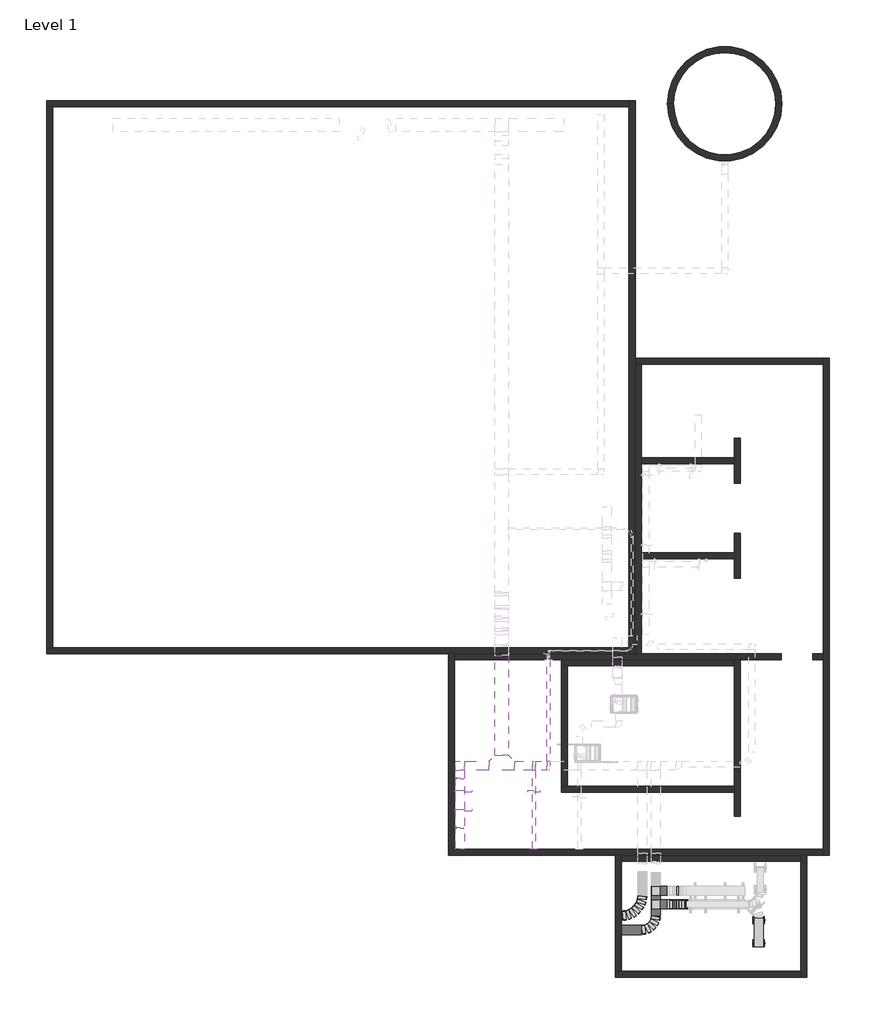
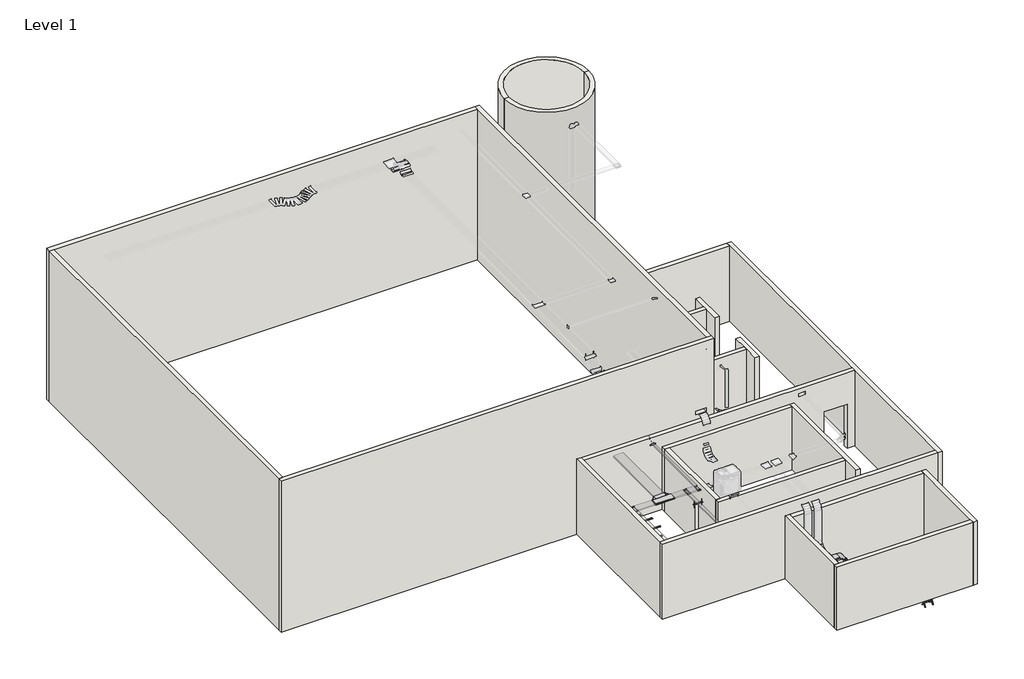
# One storey, part 1 of 3: 24 walls, 16 cable carrier segments, 11 cable carrier fittings, 7 electric appliances.
"""IFC4 building model written with IfcOpenShell, lengths in millimetres."""

from ifc_helpers import new_model, si_unit, point, frame, frame_2d, origin, origin_with_axes, place, context, project, spatial, polyline, circle_curve, trimmed, segment, composite_curve, outline, extrude, faceted_brep, transform, mapped, element, save
from components import cable_carrier_fitting_1d7cee85, cable_carrier_fitting_3a409af5, cable_carrier_fitting_f272e647, cable_carrier_fitting_cf0266b7, cable_carrier_fitting_ccfa0999, cable_carrier_fitting_4fea7dfd, inside_feb4f6bf, outside_59f74532, standard_9af1a614, standard_d35a98ab, standard_15ca4c5d, standard_c336d6d9, standard_08e3862d

model = new_model("IFC4")

# Units and contexts
model_context = context("Model", 3, world=origin())
ifc_project = project(units=[si_unit("LENGTHUNIT", "METRE", prefix="MILLI")], contexts=[model_context])

# Site, building, storey
site = spatial("IfcSite", under=ifc_project)
building = spatial("IfcBuilding", under=site)
storey = spatial("IfcBuildingStorey", under=building, Name="Level 1", Elevation=0.0)

# Cable carrier fittings
placement = place(None, origin())
cable_carrier_fitting_shape = cable_carrier_fitting_1d7cee85(model_context)
element("IfcCableCarrierFitting", 1, ObjectType="Tee-Cablofil-Wire_Mesh_Cable_Tray : EZ T 90 KIT", at=placement, inside=storey, context=model_context, shape_type="MappedRepresentation", body=[
    mapped(cable_carrier_fitting_shape, transform((3241.1308637, -7616.7461531, 1219.2), x_axis=(0.0, 1.0, 0.0), y_axis=(-1.0, 0.0, 0.0), z_axis=(0.0, 0.0, 1.0))),
])
element("IfcCableCarrierFitting", 2, ObjectType="Tee-Cablofil-Wire_Mesh_Cable_Tray : EZ T 90 KIT", at=placement, inside=storey, context=model_context, shape_type="MappedRepresentation", body=[
    mapped(cable_carrier_fitting_shape, transform((3241.1308637, -7159.5461531, 1219.2), x_axis=(0.0, 1.0, 0.0), y_axis=(-1.0, 0.0, 0.0), z_axis=(0.0, 0.0, 1.0))),
])
cable_carrier_fitting_2_shape = cable_carrier_fitting_3a409af5(model_context)
element("IfcCableCarrierFitting", 3, ObjectType="Tee-Cablofil-Wire_Mesh_Cable_Tray : EZ T 90 KIT", at=placement, inside=storey, context=model_context, shape_type="MappedRepresentation", body=[
    mapped(cable_carrier_fitting_2_shape, transform((-867.0453689, -2938.9704012, 3352.8), x_axis=(1.0, 0.0, 0.0), y_axis=(0.0, 1.0, 0.0), z_axis=(0.0, 0.0, 1.0))),
])
element("IfcCableCarrierFitting", 4, ObjectType="Tee-Cablofil-Wire_Mesh_Cable_Tray : EZ T 90 KIT", at=placement, inside=storey, context=model_context, shape_type="MappedRepresentation", body=[
    mapped(cable_carrier_fitting_2_shape, transform((-379.897722, -2938.9704012, 3352.8), x_axis=(-1.0, 0.0, 0.0), y_axis=(0.0, -1.0, 0.0), z_axis=(0.0, 0.0, 1.0))),
])
cable_carrier_fitting_3_shape = cable_carrier_fitting_f272e647(model_context)
element("IfcCableCarrierFitting", 5, ObjectType="Tee-Cablofil-Wire_Mesh_Cable_Tray : Y Junctions", at=placement, inside=storey, context=model_context, shape_type="MappedRepresentation", body=[
    mapped(cable_carrier_fitting_3_shape, transform((-1955.469197, -2938.9704012, 3352.8), x_axis=(-1.0, 0.0, 0.0), y_axis=(0.0, -1.0, 0.0), z_axis=(0.0, 0.0, 1.0))),
])
cable_carrier_fitting_4_shape = cable_carrier_fitting_cf0266b7(model_context)
element("IfcCableCarrierFitting", 6, ObjectType="Bend-Horizontal-Cablofil-Wire_Mesh_Cable_Tray : EZ T 90 KIT", at=placement, inside=storey, context=model_context, shape_type="MappedRepresentation", body=[
    mapped(cable_carrier_fitting_4_shape, transform((-3371.1208052, -2938.9704012, 3352.8), x_axis=(-1.0, 0.0, 0.0), y_axis=(0.0, -1.0, 0.0), z_axis=(0.0, 0.0, 1.0))),
])
cable_carrier_fitting_5_shape = cable_carrier_fitting_ccfa0999(model_context)
element("IfcCableCarrierFitting", 7, ObjectType="Bend-Horizontal-Cablofil-Wire_Mesh_Cable_Tray : Faslock", at=placement, inside=storey, context=model_context, shape_type="MappedRepresentation", body=[
    mapped(cable_carrier_fitting_5_shape, transform((3241.1308637, -8478.1609985, 1219.2), x_axis=(1.0, 0.0, 0.0), y_axis=(0.0, 1.0, 0.0), z_axis=(0.0, 0.0, 1.0))),
])
cable_carrier_fitting_6_shape = cable_carrier_fitting_4fea7dfd(model_context)
element("IfcCableCarrierFitting", 8, ObjectType="Bend-Horizontal-Cablofil-Wire_Mesh_Cable_Tray-Cablobend : Cablobend", at=placement, inside=storey, context=model_context, shape_type="MappedRepresentation", body=[
    mapped(cable_carrier_fitting_6_shape, transform((2783.9308637, -7995.5609985, 1219.2), x_axis=(1.0, 0.0, 0.0), y_axis=(0.0, 1.0, 0.0), z_axis=(0.0, 0.0, 1.0))),
])
inside_shape = inside_feb4f6bf(model_context)
element("IfcCableCarrierFitting", 9, ObjectType="Bend-Vertical-Cablofil-Wire_Mesh_Cable_Tray-Cablobend : Inside", at=placement, inside=storey, context=model_context, shape_type="MappedRepresentation", body=[
    mapped(inside_shape, transform((3974.8294107, -7616.7461531, -914.4), x_axis=(0.0, 0.0, -1.0), y_axis=(1.0, 0.0, 0.0), z_axis=(0.0, -1.0, 0.0))),
])
outside_shape = outside_59f74532(model_context)
element("IfcCableCarrierFitting", 10, ObjectType="Bend-Vertical-Cablofil-Wire_Mesh_Cable_Tray : Outside", at=placement, inside=storey, context=model_context, shape_type="MappedRepresentation", body=[
    mapped(outside_shape, transform((3974.8294107, -7616.7461531, 1219.2), x_axis=(1.0, 0.0, 0.0), y_axis=(0.0, 0.0, -1.0), z_axis=(0.0, 1.0, 0.0))),
])
standard_shape = standard_9af1a614(model_context)
element("IfcCableCarrierFitting", 11, ObjectType="End-Cablofil-Wire_Mesh_Cable_Tray : Standard", at=placement, inside=storey, context=model_context, shape_type="MappedRepresentation", body=[
    mapped(standard_shape, transform((-867.0453689, -5757.8717985, 3352.8), x_axis=(0.0, -1.0, 0.0), y_axis=(1.0, 0.0, 0.0), z_axis=(0.0, 0.0, 1.0))),
])

# Cable carrier segments
element("IfcCableCarrierSegment", 12, ObjectType="Cable_Tray-Wire_Mesh-Cablofil-Universal_Splice", at=placement, inside=storey, context=model_context, shape_type="SweptSolid", body=[
    extrude(outline(polyline([(-2387.269197, -2786.5704012), (-2387.269197, -3091.3704012), (-3215.5458052, -3091.3704012), (-3215.5458052, -2786.5704012), (-2387.269197, -2786.5704012)])), frame((0.0, 0.0, 3327.4), z_axis=(0.0, 0.0, 1.0), x_axis=(1.0, 0.0, 0.0)), (0.0, 0.0, 1.0), 50.8),
])
element("IfcCableCarrierSegment", 13, ObjectType="Cable_Tray-Wire_Mesh-Cablofil-Universal_Splice", at=placement, inside=storey, context=model_context, shape_type="SweptSolid", body=[
    extrude(outline(polyline([(3088.7308637, -7772.3211531), (3393.5308637, -7772.3211531), (3393.5308637, -8001.0243748), (3088.7308637, -8001.0243748), (3088.7308637, -7772.3211531)])), frame((0.0, 0.0, 1193.8), z_axis=(0.0, 0.0, 1.0), x_axis=(1.0, 0.0, 0.0)), (0.0, 0.0, 1.0), 50.8),
])
element("IfcCableCarrierSegment", 14, ObjectType="Cable_Tray-Wire_Mesh-Cablofil-Universal_Splice", at=placement, inside=storey, context=model_context, shape_type="SweptSolid", body=[
    extrude(outline(polyline([(3396.7058637, -7769.1461531), (3396.7058637, -7464.3461531), (3624.6927871, -7464.3461531), (3624.6927871, -7769.1461531), (3396.7058637, -7769.1461531)])), frame((0.0, 0.0, 1193.8), z_axis=(0.0, 0.0, 1.0), x_axis=(1.0, 0.0, 0.0)), (0.0, 0.0, 1.0), 50.8),
])
element("IfcCableCarrierSegment", 15, ObjectType="Cable_Tray-Wire_Mesh-Cablofil-Universal_Splice", at=placement, inside=storey, context=model_context, shape_type="SweptSolid", body=[
    extrude(outline(polyline([(3949.4294107, -7769.1461531), (3949.4294107, -7464.3461531), (4000.2294107, -7464.3461531), (4000.2294107, -7769.1461531), (3949.4294107, -7769.1461531)])), frame((0.0, 0.0, -564.2633763), z_axis=(0.0, 0.0, 1.0), x_axis=(1.0, 0.0, 0.0)), (0.0, 0.0, 1.0), 1433.3267527),
])
element("IfcCableCarrierSegment", 16, ObjectType="Cable_Tray-Wire_Mesh-Cablofil-Universal_Splice", at=placement, inside=storey, context=model_context, shape_type="SweptSolid", body=[
    extrude(outline(polyline([(-3523.5208052, -3094.5454012), (-3218.7208052, -3094.5454012), (-3218.7208052, -5760.3609985), (-3523.5208052, -5760.3609985), (-3523.5208052, -3094.5454012)])), frame((0.0, 0.0, 3327.4), z_axis=(0.0, 0.0, 1.0), x_axis=(1.0, 0.0, 0.0)), (0.0, 0.0, 1.0), 50.8),
])
element("IfcCableCarrierSegment", 17, ObjectType="Cable_Tray-Wire_Mesh-Cablofil-Universal_Splice", at=placement, inside=storey, context=model_context, shape_type="SweptSolid", body=[
    extrude(outline(polyline([(-917.8453689, -3094.5454012), (-816.2453689, -3094.5454012), (-816.2453689, -5757.8717985), (-917.8453689, -5757.8717985), (-917.8453689, -3094.5454012)])), frame((0.0, 0.0, 3327.4), z_axis=(0.0, 0.0, 1.0), x_axis=(1.0, 0.0, 0.0)), (0.0, 0.0, 1.0), 50.8),
])
element("IfcCableCarrierSegment", 18, ObjectType="Cable_Tray-Wire_Mesh-Cablofil-Universal_Splice", at=placement, inside=storey, context=model_context, shape_type="SweptSolid", body=[
    extrude(outline(polyline([(-433.872722, -2786.5704012), (-433.872722, -3091.3704012), (-813.0703689, -3091.3704012), (-813.0703689, -2786.5704012), (-433.872722, -2786.5704012)])), frame((0.0, 0.0, 3327.4), z_axis=(0.0, 0.0, 1.0), x_axis=(1.0, 0.0, 0.0)), (0.0, 0.0, 1.0), 50.8),
])
element("IfcCableCarrierSegment", 19, ObjectType="Cable_Tray-Wire_Mesh-Cablofil-Cablobend", at=placement, inside=storey, context=model_context, shape_type="SweptSolid", body=[
    extrude(outline(polyline([(-1726.869197, -2583.3704012), (-2184.069197, -2583.3704012), (-2184.069197, 772.9023779), (-1726.869197, 772.9023779), (-1726.869197, -2583.3704012)])), frame((0.0, 0.0, 3327.4), z_axis=(0.0, 0.0, 1.0), x_axis=(1.0, 0.0, 0.0)), (0.0, 0.0, 1.0), 50.8),
])
element("IfcCableCarrierSegment", 20, ObjectType="Cable_Tray-Wire_Mesh-Cablofil-Universal_Splice", at=placement, inside=storey, context=model_context, shape_type="SweptSolid", body=[
    extrude(outline(polyline([(-921.0203689, -2786.5704012), (-921.0203689, -3091.3704012), (-1523.669197, -3091.3704012), (-1523.669197, -2786.5704012), (-921.0203689, -2786.5704012)])), frame((0.0, 0.0, 3327.4), z_axis=(0.0, 0.0, 1.0), x_axis=(1.0, 0.0, 0.0)), (0.0, 0.0, 1.0), 50.8),
])
element("IfcCableCarrierSegment", 21, ObjectType="Cable_Tray-Wire_Mesh-Cablofil-Universal_Splice", at=placement, inside=storey, context=model_context, shape_type="SweptSolid", body=[
    extrude(outline(polyline([(6565.6294107, -8073.9461531), (6870.4294107, -8073.9461531), (6870.4294107, -9039.1461531), (6565.6294107, -9039.1461531), (6565.6294107, -8073.9461531)])), frame((0.0, 0.0, -939.8), z_axis=(0.0, 0.0, 1.0), x_axis=(1.0, 0.0, 0.0)), (0.0, 0.0, 1.0), 50.8),
])
element("IfcCableCarrierSegment", 22, ObjectType="Cable_Tray-Wire_Mesh-Cablofil-Universal_Splice", at=placement, inside=storey, context=model_context, shape_type="SweptSolid", body=[
    extrude(outline(polyline([(-329.097722, -2783.3954012), (-430.697722, -2783.3954012), (-430.697722, 637.9498015), (-329.097722, 637.9498015), (-329.097722, -2783.3954012)])), frame((0.0, 0.0, 3327.4), z_axis=(0.0, 0.0, 1.0), x_axis=(1.0, 0.0, 0.0)), (0.0, 0.0, 1.0), 50.8),
])
element("IfcCableCarrierSegment", 23, ObjectType="Cable_Tray-Wire_Mesh-Cablofil-Cablobend", at=placement, inside=storey, context=model_context, shape_type="SweptSolid", body=[
    extrude(outline(polyline([(0.0, -304.8), (0.0, 0.0), (227.9869234, 0.0), (227.9869234, -304.8), (0.0, -304.8)])), frame((3396.7058637, -7007.1461531, 1193.8), z_axis=(-4.395837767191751e-12, 0.0, 1.0), x_axis=(1.0, 0.0, 4.395837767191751e-12)), (0.0, 0.0, 1.0), 50.8),
])
element("IfcCableCarrierSegment", 24, ObjectType="Cable_Tray-Wire_Mesh-Cablofil-Cablobend", at=placement, inside=storey, context=model_context, shape_type="SweptSolid", body=[
    extrude(outline(polyline([(3949.4294107, -7311.9461531), (3949.4294107, -7007.1461531), (4000.2294107, -7007.1461531), (4000.2294107, -7311.9461531), (3949.4294107, -7311.9461531)])), frame((0.0, 0.0, -615.0633763), z_axis=(0.0, 0.0, 1.0), x_axis=(1.0, 0.0, 0.0)), (0.0, 0.0, 1.0), 1484.1267527),
])
element("IfcCableCarrierSegment", 25, ObjectType="Cable_Tray-Wire_Mesh-Cablofil-Universal_Splice", at=placement, inside=storey, context=model_context, shape_type="SweptSolid", body=[
    extrude(outline(polyline([(3393.5308637, -7461.1711531), (3088.7308637, -7461.1711531), (3088.7308637, -7315.1211531), (3393.5308637, -7315.1211531), (3393.5308637, -7461.1711531)])), frame((0.0, 0.0, 1193.8), z_axis=(0.0, 0.0, 1.0), x_axis=(1.0, 0.0, 0.0)), (0.0, 0.0, 1.0), 50.8),
])
element("IfcCableCarrierSegment", 26, ObjectType="Cable_Tray-Wire_Mesh-Cablofil-Cablobend", at=placement, inside=storey, context=model_context, shape_type="SweptSolid", body=[
    extrude(outline(polyline([(2100.3160183, -7843.1609985), (2100.3160183, -8147.9609985), (2089.8791948, -8147.9609985), (2089.8791948, -7843.1609985), (2100.3160183, -7843.1609985)])), frame((0.0, 0.0, 1193.8), z_axis=(0.0, 0.0, 1.0), x_axis=(1.0, 0.0, 0.0)), (0.0, 0.0, 1.0), 50.8),
])
element("IfcCableCarrierSegment", 27, ObjectType="Cable_Tray-Wire_Mesh-Cablofil-Universal_Splice", at=placement, inside=storey, context=model_context, shape_type="SweptSolid", body=[
    extrude(outline(polyline([(2763.99424, -8325.7609985), (2763.99424, -8630.5609985), (2089.8791948, -8630.5609985), (2089.8791948, -8325.7609985), (2763.99424, -8325.7609985)])), frame((0.0, 0.0, 1193.8), z_axis=(0.0, 0.0, 1.0), x_axis=(1.0, 0.0, 0.0)), (0.0, 0.0, 1.0), 50.8),
])

# Electric appliances
standard_2_shape = standard_d35a98ab(model_context)
element("IfcElectricAppliance", 28, ObjectType="Bracket-I-Cablofil-FAS_Profile-Trapeeze : Standard", at=placement, inside=storey, context=model_context, shape_type="MappedRepresentation", body=[
    mapped(standard_2_shape, transform((-867.0453689, -3804.5609985, 3327.4), x_axis=(1.0, 0.0, 0.0), y_axis=(0.0, -1.0, 0.0), z_axis=(0.0, 0.0, -1.0))),
])
standard_3_shape = standard_15ca4c5d(model_context)
element("IfcElectricAppliance", 29, ObjectType="Bracket-Floor-Cablofil : Standard", at=placement, inside=storey, context=model_context, shape_type="MappedRepresentation", body=[
    mapped(standard_3_shape, transform((6718.0294107, -8149.1484322, -939.8), x_axis=(0.0, -1.0, 0.0), y_axis=(-1.0, 0.0, 0.0), z_axis=(0.0, 0.0, -1.0))),
])
element("IfcElectricAppliance", 30, ObjectType="Bracket-Floor-Cablofil : Standard", at=placement, inside=storey, context=model_context, shape_type="MappedRepresentation", body=[
    mapped(standard_3_shape, transform((6718.0294107, -8926.6932153, -939.8), x_axis=(0.0, -1.0, 0.0), y_axis=(-1.0, 0.0, 0.0), z_axis=(0.0, 0.0, -1.0))),
])
standard_4_shape = standard_c336d6d9(model_context)
element("IfcElectricAppliance", 31, ObjectType="Bracket-L-Cablofil-Fas_Profile : Standard", at=placement, inside=storey, context=model_context, shape_type="MappedRepresentation", body=[
    mapped(standard_4_shape, transform((-3230.7808262, -3794.1493748, 3327.4), x_axis=(0.0, 1.0, 0.0), y_axis=(1.0, 0.0, 0.0), z_axis=(0.0, 0.0, -1.0))),
])
element("IfcElectricAppliance", 32, ObjectType="Bracket-L-Cablofil-Fas_Profile : Standard", at=placement, inside=storey, context=model_context, shape_type="MappedRepresentation", body=[
    mapped(standard_4_shape, transform((-3230.7808262, -4441.8493748, 3327.4), x_axis=(0.0, 1.0, 0.0), y_axis=(1.0, 0.0, 0.0), z_axis=(0.0, 0.0, -1.0))),
])
standard_5_shape = standard_08e3862d(model_context)
element("IfcElectricAppliance", 33, ObjectType="Bracket-L-Cablofil-Standard : Standard", at=placement, inside=storey, context=model_context, shape_type="MappedRepresentation", body=[
    mapped(standard_5_shape, transform((-3371.1208052, -5038.7493748, 3327.4), x_axis=(0.0, 1.0, 0.0), y_axis=(1.0, 0.0, 0.0), z_axis=(0.0, 0.0, -1.0))),
])
element("IfcElectricAppliance", 34, ObjectType="Bracket-L-Cablofil-Standard : Standard", at=placement, inside=storey, context=model_context, shape_type="MappedRepresentation", body=[
    mapped(standard_5_shape, transform((-3371.1208052, -3368.6993748, 3327.4), x_axis=(0.0, 1.0, 0.0), y_axis=(1.0, 0.0, 0.0), z_axis=(0.0, 0.0, -1.0))),
])

# Walls
element("IfcWall", 35, ObjectType="Generic - 8\"", at=placement, inside=storey, context=model_context, shape_type="Brep", body=[
    faceted_brep([(5899.8791948, 640.4390015, 0.0), (57.8791948, 640.4390015, 0.0), (57.8791948, 640.4390015, 3048.0), (5899.8791948, 640.4390015, 3048.0), (5899.8791948, 437.2390015, 0.0), (5899.8791948, 437.2390015, 3048.0), (261.0791948, 437.2390015, 3048.0), (57.8791948, 437.2390015, 3048.0), (57.8791948, 437.2390015, 0.0), (261.0791948, 437.2390015, 0.0)], [[[0, 1, 2, 3]], [[4, 5, 6, 7, 8, 9]], [[1, 0, 4, 9, 8]], [[3, 2, 7, 6, 5]], [[2, 1, 8, 7]], [[0, 3, 5, 4]]]),
])
element("IfcWall", 36, ObjectType="Generic - 8\"", at=placement, inside=storey, context=model_context, shape_type="Brep", body=[
    faceted_brep([(5899.8791948, 640.4390015, 0.0), (5899.8791948, 437.2390015, 0.0), (5899.8791948, -3626.7609985, 0.0), (5899.8791948, -3829.9609985, 0.0), (5899.8791948, -4642.7609985, 0.0), (5899.8791948, -4642.7609985, 3048.0), (5899.8791948, -3829.9609985, 3048.0), (5899.8791948, -3626.7609985, 3048.0), (5899.8791948, 437.2390015, 3048.0), (5899.8791948, 640.4390015, 3048.0), (6103.0791948, 640.4390015, 0.0), (6103.0791948, 640.4390015, 3048.0), (6103.0791948, -4642.7609985, 3048.0), (6103.0791948, -4642.7609985, 0.0)], [[[0, 1, 2, 3, 4, 5, 6, 7, 8, 9]], [[10, 11, 12, 13]], [[4, 3, 2, 1, 0, 10, 13]], [[5, 4, 13, 12]], [[9, 8, 7, 6, 5, 12, 11]], [[0, 9, 11, 10]]]),
])
element("IfcWall", 37, ObjectType="Generic - 8\"", at=placement, inside=storey, context=model_context, shape_type="Brep", body=[
    faceted_brep([(5899.8791948, -3626.7609985, 0.0), (261.0791948, -3626.7609985, 0.0), (57.8791948, -3626.7609985, 0.0), (57.8791948, -3626.7609985, 3048.0), (261.0791948, -3626.7609985, 3048.0), (5899.8791948, -3626.7609985, 3048.0), (5899.8791948, -3829.9609985, 0.0), (5899.8791948, -3829.9609985, 3048.0), (57.8791948, -3829.9609985, 3048.0), (57.8791948, -3829.9609985, 0.0)], [[[0, 1, 2, 3, 4, 5]], [[6, 7, 8, 9]], [[2, 1, 0, 6, 9]], [[5, 4, 3, 8, 7]], [[3, 2, 9, 8]], [[0, 5, 7, 6]]]),
])
element("IfcWall", 38, ObjectType="Generic - 8\"", at=placement, inside=storey, context=model_context, shape_type="SweptSolid", body=[
    extrude(outline(polyline([(261.0791948, 437.2390015), (261.0791948, -3626.7609985), (57.8791948, -3626.7609985), (57.8791948, 437.2390015), (261.0791948, 437.2390015)])), origin_with_axes(), (0.0, 0.0, 1.0), 3048.0),
])
element("IfcWall", 39, ObjectType="Generic - 8\"", at=placement, inside=storey, context=model_context, shape_type="Brep", body=[
    faceted_brep([(8897.0791948, 10800.4390015, 0.0), (8897.0791948, 10597.2390015, 0.0), (8897.0791948, 843.6390015, 0.0), (8897.0791948, 640.4390015, 0.0), (8897.0791948, -5760.3609985, 0.0), (8897.0791948, -5963.5609985, 0.0), (8897.0791948, -5963.5609985, 3657.6), (8897.0791948, -5760.3609985, 3657.6), (8897.0791948, 640.4390015, 3657.6), (8897.0791948, 843.6390015, 3657.6), (8897.0791948, 10597.2390015, 3657.6), (8897.0791948, 10800.4390015, 3657.6), (9100.2791948, 10800.4390015, 0.0), (9100.2791948, 10800.4390015, 3657.6), (9100.2791948, -5963.5609985, 3657.6), (9100.2791948, -5963.5609985, 0.0)], [[[0, 1, 2, 3, 4, 5, 6, 7, 8, 9, 10, 11]], [[12, 13, 14, 15]], [[5, 4, 3, 2, 1, 0, 12, 15]], [[11, 10, 9, 8, 7, 6, 14, 13]], [[6, 5, 15, 14]], [[0, 11, 13, 12]]]),
])
element("IfcWall", 40, ObjectType="Generic - 8\"", at=placement, inside=storey, context=model_context, shape_type="Brep", body=[
    faceted_brep([(8897.0791948, -5760.3609985, 0.0), (-3548.9208052, -5760.3609985, 0.0), (-3752.1208052, -5760.3609985, 0.0), (-3752.1208052, -5760.3609985, 3657.6), (-3548.9208052, -5760.3609985, 3657.6), (8897.0791948, -5760.3609985, 3657.6), (8897.0791948, -5963.5609985, 0.0), (8897.0791948, -5963.5609985, 3657.6), (-3752.1208052, -5963.5609985, 3657.6), (-3752.1208052, -5963.5609985, 0.0)], [[[0, 1, 2, 3, 4, 5]], [[6, 7, 8, 9]], [[2, 1, 0, 6, 9]], [[5, 4, 3, 8, 7]], [[0, 5, 7, 6]], [[3, 2, 9, 8]]]),
])
element("IfcWall", 41, ObjectType="Generic - 8\"", at=placement, inside=storey, context=model_context, shape_type="Brep", body=[
    faceted_brep([(-3548.9208052, -5760.3609985, 0.0), (-3548.9208052, 640.4390015, 0.0), (-3548.9208052, 843.6390015, 0.0), (-3548.9208052, 843.6390015, 3657.6), (-3548.9208052, 640.4390015, 3657.6), (-3548.9208052, -5760.3609985, 3657.6), (-3752.1208052, -5760.3609985, 0.0), (-3752.1208052, -5760.3609985, 3657.6), (-3752.1208052, 843.6390015, 3657.6), (-3752.1208052, 843.6390015, 0.0)], [[[0, 1, 2, 3, 4, 5]], [[6, 7, 8, 9]], [[2, 1, 0, 6, 9]], [[5, 4, 3, 8, 7]], [[0, 5, 7, 6]], [[3, 2, 9, 8]]]),
])
element("IfcWall", 42, ObjectType="Generic - 8\"", at=placement, inside=storey, context=model_context, shape_type="Brep", body=[
    faceted_brep([(8135.0791948, -5963.5609985, 0.0), (8135.0791948, -6166.7609985, 0.0), (8135.0791948, -9875.1609985, 0.0), (8135.0791948, -10078.3609985, 0.0), (8135.0791948, -10078.3609985, 3048.0), (8135.0791948, -9875.1609985, 3048.0), (8135.0791948, -6166.7609985, 3048.0), (8135.0791948, -5963.5609985, 3048.0), (8338.2791948, -5963.5609985, 0.0), (8338.2791948, -5963.5609985, 3048.0), (8338.2791948, -10078.3609985, 3048.0), (8338.2791948, -10078.3609985, 0.0)], [[[0, 1, 2, 3, 4, 5, 6, 7]], [[8, 9, 10, 11]], [[3, 2, 1, 0, 8, 11]], [[7, 6, 5, 4, 10, 9]], [[4, 3, 11, 10]], [[0, 7, 9, 8]]]),
])
element("IfcWall", 43, ObjectType="Generic - 8\"", at=placement, inside=storey, context=model_context, shape_type="Brep", body=[
    faceted_brep([(8135.0791948, -9875.1609985, 0.0), (2089.8791948, -9875.1609985, 0.0), (1886.6791948, -9875.1609985, 0.0), (1886.6791948, -9875.1609985, 3048.0), (2089.8791948, -9875.1609985, 3048.0), (8135.0791948, -9875.1609985, 3048.0), (8135.0791948, -10078.3609985, 0.0), (8135.0791948, -10078.3609985, 3048.0), (1886.6791948, -10078.3609985, 3048.0), (1886.6791948, -10078.3609985, 0.0)], [[[0, 1, 2, 3, 4, 5]], [[6, 7, 8, 9]], [[2, 1, 0, 6, 9]], [[5, 4, 3, 8, 7]], [[0, 5, 7, 6]], [[3, 2, 9, 8]]]),
])
element("IfcWall", 44, ObjectType="Generic - 8\"", at=placement, inside=storey, context=model_context, shape_type="Brep", body=[
    faceted_brep([(2089.8791948, -9875.1609985, 0.0), (2089.8791948, -6166.7609985, 0.0), (2089.8791948, -5963.5609985, 0.0), (2089.8791948, -5963.5609985, 3048.0), (2089.8791948, -6166.7609985, 3048.0), (2089.8791948, -9875.1609985, 3048.0), (1886.6791948, -9875.1609985, 0.0), (1886.6791948, -9875.1609985, 3048.0), (1886.6791948, -5963.5609985, 3048.0), (1886.6791948, -5963.5609985, 0.0)], [[[0, 1, 2, 3, 4, 5]], [[6, 7, 8, 9]], [[2, 1, 0, 6, 9]], [[5, 4, 3, 8, 7]], [[0, 5, 7, 6]], [[3, 2, 9, 8]]]),
])
element("IfcWall", 45, ObjectType="Generic - 8\"", at=placement, inside=storey, context=model_context, shape_type="SweptSolid", body=[
    extrude(outline(polyline([(8135.0791948, -6166.7609985), (2089.8791948, -6166.7609985), (2089.8791948, -5963.5609985), (8135.0791948, -5963.5609985), (8135.0791948, -6166.7609985)])), origin_with_axes(), (0.0, 0.0, 1.0), 3048.0),
])
element("IfcWall", 46, ObjectType="Generic - 8\"", at=placement, inside=storey, context=model_context, shape_type="Brep", body=[
    faceted_brep([(-3548.9208052, 640.4390015, 0.0), (7474.0266142, 640.4390015, 0.0), (7474.0266142, 640.4390015, 2133.6), (8540.8266142, 640.4390015, 2133.6), (8540.8266142, 640.4390015, 0.0), (8897.0791948, 640.4390015, 0.0), (8897.0791948, 640.4390015, 3657.6), (-3548.9208052, 640.4390015, 3657.6), (6633.0710894, 640.4390015, 3426.5463232), (6633.0710894, 640.4390015, 3280.4963232), (6321.9210894, 640.4390015, 3280.4963232), (6321.9210894, 640.4390015, 3426.5463232), (-3548.9208052, 843.6390015, 0.0), (-3548.9208052, 843.6390015, 3657.6), (2547.0791948, 843.6390015, 3657.6), (2750.2791948, 843.6390015, 3657.6), (8897.0791948, 843.6390015, 3657.6), (8897.0791948, 843.6390015, 0.0), (8540.8266142, 843.6390015, 0.0), (8540.8266142, 843.6390015, 2133.6), (7474.0266142, 843.6390015, 2133.6), (7474.0266142, 843.6390015, 0.0), (2750.2791948, 843.6390015, 0.0), (2547.0791948, 843.6390015, 0.0), (6633.0710894, 843.6390015, 3426.5463232), (6321.9210894, 843.6390015, 3426.5463232), (6321.9210894, 843.6390015, 3280.4963232), (6633.0710894, 843.6390015, 3280.4963232)], [[[0, 1, 2, 3, 4, 5, 6, 7], [8, 9, 10, 11]], [[12, 13, 14, 15, 16, 17, 18, 19, 20, 21, 22, 23], [24, 25, 26, 27]], [[0, 7, 13, 12]], [[6, 5, 17, 16]], [[1, 0, 12, 23, 22, 21]], [[7, 6, 16, 15, 14, 13]], [[2, 1, 21, 20]], [[3, 2, 20, 19]], [[4, 3, 19, 18]], [[5, 4, 18, 17]], [[9, 8, 24, 27]], [[10, 9, 27, 26]], [[11, 10, 26, 25]], [[8, 11, 25, 24]]]),
])
element("IfcWall", 47, ObjectType="Generic - 8\"", at=placement, inside=storey, context=model_context, shape_type="Brep", body=[
    faceted_brep([(2547.0791948, 1046.8390015, 0.0), (2343.8791948, 1046.8390015, 0.0), (-17112.5208052, 1046.8390015, 0.0), (-17315.7208052, 1046.8390015, 0.0), (-17315.7208052, 1046.8390015, 7315.2), (-17112.5208052, 1046.8390015, 7315.2), (2343.8791948, 1046.8390015, 7315.2), (2547.0791948, 1046.8390015, 7315.2), (2191.4791948, 1046.8390015, 4064.0), (1708.8791948, 1046.8390015, 4064.0), (1708.8791948, 1046.8390015, 3886.2), (2191.4791948, 1046.8390015, 3886.2), (-17315.7208052, 843.6390015, 0.0), (2547.0791948, 843.6390015, 0.0), (2547.0791948, 843.6390015, 7315.2), (-17315.7208052, 843.6390015, 7315.2), (1708.8791948, 843.6390015, 4064.0), (2191.4791948, 843.6390015, 4064.0), (2191.4791948, 843.6390015, 3886.2), (1708.8791948, 843.6390015, 3886.2)], [[[0, 1, 2, 3, 4, 5, 6, 7], [8, 9, 10, 11]], [[12, 13, 14, 15], [16, 17, 18, 19]], [[3, 2, 1, 0, 13, 12]], [[7, 6, 5, 4, 15, 14]], [[0, 7, 14, 13]], [[4, 3, 12, 15]], [[8, 17, 16, 9]], [[10, 19, 18, 11]], [[17, 8, 11, 18]], [[9, 16, 19, 10]]]),
])
element("IfcWall", 48, ObjectType="Generic - 8\"", at=placement, inside=storey, context=model_context, shape_type="Brep", body=[
    faceted_brep([(2343.8791948, 19487.2390015, 0.0), (2343.8791948, 19284.0390015, 0.0), (2343.8791948, 1046.8390015, 0.0), (2343.8791948, 1046.8390015, 7315.2), (2343.8791948, 19284.0390015, 7315.2), (2343.8791948, 19487.2390015, 7315.2), (2547.0791948, 19487.2390015, 0.0), (2547.0791948, 19487.2390015, 7315.2), (2547.0791948, 1046.8390015, 7315.2), (2547.0791948, 1046.8390015, 0.0), (2547.0791948, 4042.4174485, 0.0), (2547.0791948, 4245.6174485, 0.0)], [[[0, 1, 2, 3, 4, 5]], [[6, 7, 8, 9, 10, 11]], [[2, 1, 0, 6, 11, 10, 9]], [[5, 4, 3, 8, 7]], [[3, 2, 9, 8]], [[0, 5, 7, 6]]]),
])
element("IfcWall", 49, ObjectType="Generic - 8\"", at=placement, inside=storey, context=model_context, shape_type="Brep", body=[
    faceted_brep([(2547.0791948, 10597.2390015, 0.0), (2750.2791948, 10597.2390015, 0.0), (8897.0791948, 10597.2390015, 0.0), (8897.0791948, 10597.2390015, 3657.6), (2750.2791948, 10597.2390015, 3657.6), (2547.0791948, 10597.2390015, 3657.6), (2547.0791948, 10800.4390015, 0.0), (2547.0791948, 10800.4390015, 3657.6), (8897.0791948, 10800.4390015, 3657.6), (8897.0791948, 10800.4390015, 0.0)], [[[0, 1, 2, 3, 4, 5]], [[6, 7, 8, 9]], [[2, 1, 0, 6, 9]], [[5, 4, 3, 8, 7]], [[3, 2, 9, 8]], [[0, 5, 7, 6]]]),
])
element("IfcWall", 50, ObjectType="Generic - 8\"", at=placement, inside=storey, context=model_context, shape_type="SweptSolid", body=[
    extrude(outline(polyline([(0.0, 2750.2791948), (0.0, 5899.8791948), (3657.6, 5899.8791948), (3657.6, 2750.2791948), (0.0, 2750.2791948)]), holes=[polyline([(3427.5054882, 4843.5998103), (3275.1054882, 4843.5998103), (3275.1054882, 4519.7498103), (3427.5054882, 4519.7498103), (3427.5054882, 4843.5998103)])]), frame((0.0, 7244.4390015, 0.0), z_axis=(0.0, 1.0, 0.0), x_axis=(0.0, 0.0, 1.0)), (0.0, 0.0, 1.0), 203.2),
])
element("IfcWall", 51, ObjectType="Generic - 8\"", at=placement, inside=storey, context=model_context, shape_type="SweptSolid", body=[
    extrude(outline(polyline([(0.0, 2547.0791948), (0.0, 5899.8791948), (3657.6, 5899.8791948), (3657.6, 2547.0791948), (0.0, 2547.0791948)]), holes=[polyline([(3459.7287447, 3065.9770799), (3205.7287447, 3065.9770799), (3205.7287447, 2775.6791948), (3459.7287447, 2775.6791948), (3459.7287447, 3065.9770799)])]), frame((0.0, 4042.4174485, 0.0), z_axis=(0.0, 1.0, 0.0), x_axis=(0.0, 0.0, 1.0)), (0.0, 0.0, 1.0), 203.2),
])
element("IfcWall", 52, ObjectType="Generic - 8\"", at=placement, inside=storey, context=model_context, shape_type="Brep", body=[
    faceted_brep([(5899.8791948, 4906.0174485, 0.0), (5899.8791948, 4245.6174485, 0.0), (5899.8791948, 4042.4174485, 0.0), (5899.8791948, 3382.0174485, 0.0), (5899.8791948, 3382.0174485, 3657.6), (5899.8791948, 4042.4174485, 3657.6), (5899.8791948, 4245.6174485, 3657.6), (5899.8791948, 4906.0174485, 3657.6), (6103.0791948, 4906.0174485, 0.0), (6103.0791948, 4906.0174485, 3657.6), (6103.0791948, 3382.0174485, 3657.6), (6103.0791948, 3382.0174485, 0.0)], [[[0, 1, 2, 3, 4, 5, 6, 7]], [[8, 9, 10, 11]], [[3, 2, 1, 0, 8, 11]], [[4, 3, 11, 10]], [[7, 6, 5, 4, 10, 9]], [[0, 7, 9, 8]]]),
])
element("IfcWall", 53, ObjectType="Generic - 8\"", at=placement, inside=storey, context=model_context, shape_type="Brep", body=[
    faceted_brep([(5899.8791948, 8108.0390015, 0.0), (5899.8791948, 7447.6390015, 0.0), (5899.8791948, 7244.4390015, 0.0), (5899.8791948, 6584.0390015, 0.0), (5899.8791948, 6584.0390015, 3657.6), (5899.8791948, 7244.4390015, 3657.6), (5899.8791948, 7447.6390015, 3657.6), (5899.8791948, 8108.0390015, 3657.6), (6103.0791948, 8108.0390015, 0.0), (6103.0791948, 8108.0390015, 3657.6), (6103.0791948, 6584.0390015, 3657.6), (6103.0791948, 6584.0390015, 0.0)], [[[0, 1, 2, 3, 4, 5, 6, 7]], [[8, 9, 10, 11]], [[3, 2, 1, 0, 8, 11]], [[4, 3, 11, 10]], [[7, 6, 5, 4, 10, 9]], [[0, 7, 9, 8]]]),
])
element("IfcWall", 54, ObjectType="Generic - 8\"", at=placement, inside=storey, context=model_context, shape_type="Brep", body=[
    faceted_brep([(2343.8791948, 19487.2390015, 0.0), (-17315.7208052, 19487.2390015, 0.0), (-17315.7208052, 19487.2390015, 7315.2), (2343.8791948, 19487.2390015, 7315.2), (2343.8791948, 19284.0390015, 0.0), (2343.8791948, 19284.0390015, 7315.2), (-17112.5208052, 19284.0390015, 7315.2), (-17315.7208052, 19284.0390015, 7315.2), (-17315.7208052, 19284.0390015, 0.0), (-17112.5208052, 19284.0390015, 0.0)], [[[0, 1, 2, 3]], [[4, 5, 6, 7, 8, 9]], [[1, 0, 4, 9, 8]], [[3, 2, 7, 6, 5]], [[0, 3, 5, 4]], [[2, 1, 8, 7]]]),
])
element("IfcWall", 55, ObjectType="Generic - 8\"", at=placement, inside=storey, context=model_context, shape_type="SweptSolid", body=[
    extrude(outline(polyline([(-17315.7208052, 1046.8390015), (-17315.7208052, 19284.0390015), (-17112.5208052, 19284.0390015), (-17112.5208052, 1046.8390015), (-17315.7208052, 1046.8390015)])), origin_with_axes(), (0.0, 0.0, 1.0), 7315.2),
])
element("IfcWall", 56, ObjectType="Generic - 8\"", at=placement, inside=storey, context=model_context, shape_type="Brep", body=[
    faceted_brep([(2547.0791948, 10597.2390015, 0.0), (2547.0791948, 843.6390015, 0.0), (2547.0791948, 843.6390015, 3657.6), (2547.0791948, 10597.2390015, 3657.6), (2750.2791948, 10597.2390015, 0.0), (2750.2791948, 10597.2390015, 3657.6), (2750.2791948, 7447.6390015, 3657.6), (2750.2791948, 7244.4390015, 3657.6), (2750.2791948, 843.6390015, 3657.6), (2750.2791948, 843.6390015, 0.0), (2750.2791948, 7244.4390015, 0.0), (2750.2791948, 7447.6390015, 0.0)], [[[0, 1, 2, 3]], [[4, 5, 6, 7, 8, 9, 10, 11]], [[1, 0, 4, 11, 10, 9]], [[3, 2, 8, 7, 6, 5]], [[0, 3, 5, 4]], [[2, 1, 9, 8]]]),
])
element("IfcWall", 57, ObjectType="Generic - 8\"", at=placement, inside=storey, context=model_context, shape_type="SweptSolid", body=[
    extrude(outline(composite_curve([segment(polyline([(3842.4791948, 19385.6390015), (3639.2791948, 19385.6390015)]), True, "CONTINUOUS"), segment(trimmed(circle_curve(frame_2d((5569.6791948, 19385.6390015)), 1930.4), [point((3639.2791948, 19385.6390015))], [point((7500.0791948, 19385.6390015))], False, "CARTESIAN"), True, "CONTINUOUS"), segment(polyline([(7500.0791948, 19385.6390015), (7296.8791948, 19385.6390015)]), True, "CONTINUOUS"), segment(trimmed(circle_curve(frame_2d((5569.6791948, 19385.6390015)), 1727.2), [point((7296.8791948, 19385.6390015))], [point((3842.4791948, 19385.6390015))], True, "CARTESIAN"), True, "CONTINUOUS")], self_intersect=False)), origin_with_axes(), (0.0, 0.0, 1.0), 7315.2),
])
element("IfcWall", 58, ObjectType="Generic - 8\"", at=placement, inside=storey, context=model_context, shape_type="SweptSolid", body=[
    extrude(outline(composite_curve([segment(polyline([(7296.8791948, 19385.6390015), (7500.0791948, 19385.6390015)]), True, "CONTINUOUS"), segment(trimmed(circle_curve(frame_2d((5569.6791948, 19385.6390015)), 1930.4), [point((7500.0791948, 19385.6390015))], [point((3639.2791948, 19385.6390015))], False, "CARTESIAN"), True, "CONTINUOUS"), segment(polyline([(3639.2791948, 19385.6390015), (3842.4791948, 19385.6390015)]), True, "CONTINUOUS"), segment(trimmed(circle_curve(frame_2d((5569.6791948, 19385.6390015)), 1727.2), [point((3842.4791948, 19385.6390015))], [point((7296.8791948, 19385.6390015))], True, "CARTESIAN"), True, "CONTINUOUS")], self_intersect=False)), origin_with_axes(), (0.0, 0.0, 1.0), 7315.2),
])

save(model, "model.ifc")
